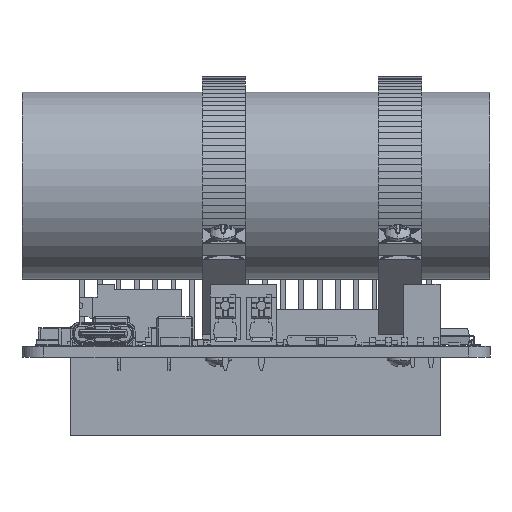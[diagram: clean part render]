
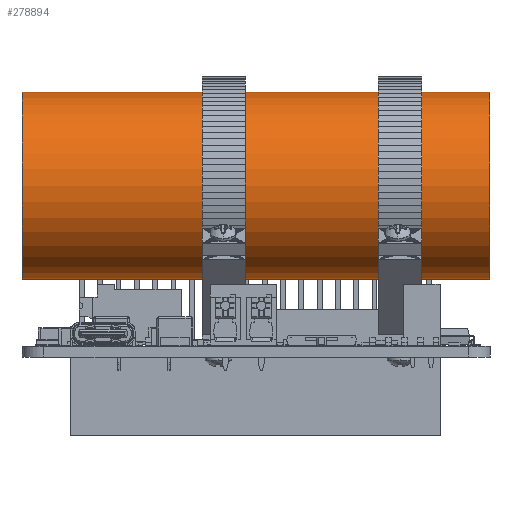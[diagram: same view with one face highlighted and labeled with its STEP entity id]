
A CAD part, front view. The second image highlights one B-rep face of the part: STEP entity #278894.
In plain terms, the highlighted cylindrical face has radius 13 mm (diameter 26 mm), a full revolution.
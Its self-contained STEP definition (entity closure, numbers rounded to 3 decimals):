
#278894 = ADVANCED_FACE('',(#278895),#278922,.T.);
#278895 = FACE_BOUND('',#278896,.T.);
#278896 = EDGE_LOOP('',(#278897,#278906,#278914,#278921));
#278897 = ORIENTED_EDGE('',*,*,#278898,.T.);
#278898 = EDGE_CURVE('',#278899,#278899,#278901,.T.);
#278899 = VERTEX_POINT('',#278900);
#278900 = CARTESIAN_POINT('',(13.,0.,0.));
#278901 = CIRCLE('',#278902,13.);
#278902 = AXIS2_PLACEMENT_3D('',#278903,#278904,#278905);
#278903 = CARTESIAN_POINT('',(0.,0.,0.));
#278904 = DIRECTION('',(0.,0.,1.));
#278905 = DIRECTION('',(1.,0.,-0.));
#278906 = ORIENTED_EDGE('',*,*,#278907,.T.);
#278907 = EDGE_CURVE('',#278899,#278908,#278910,.T.);
#278908 = VERTEX_POINT('',#278909);
#278909 = CARTESIAN_POINT('',(13.,0.,65.));
#278910 = LINE('',#278911,#278912);
#278911 = CARTESIAN_POINT('',(13.,0.,0.));
#278912 = VECTOR('',#278913,1.);
#278913 = DIRECTION('',(0.,0.,1.));
#278914 = ORIENTED_EDGE('',*,*,#278915,.F.);
#278915 = EDGE_CURVE('',#278908,#278908,#278916,.T.);
#278916 = CIRCLE('',#278917,13.);
#278917 = AXIS2_PLACEMENT_3D('',#278918,#278919,#278920);
#278918 = CARTESIAN_POINT('',(0.,0.,65.));
#278919 = DIRECTION('',(0.,0.,1.));
#278920 = DIRECTION('',(1.,0.,-0.));
#278921 = ORIENTED_EDGE('',*,*,#278907,.F.);
#278922 = CYLINDRICAL_SURFACE('',#278923,13.);
#278923 = AXIS2_PLACEMENT_3D('',#278924,#278925,#278926);
#278924 = CARTESIAN_POINT('',(0.,0.,0.));
#278925 = DIRECTION('',(-0.,-0.,-1.));
#278926 = DIRECTION('',(1.,0.,-0.));
